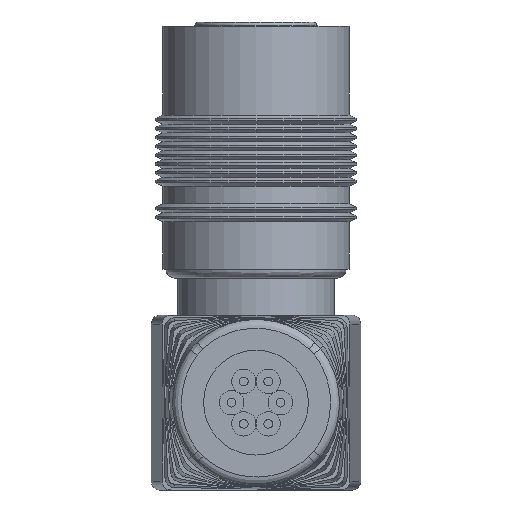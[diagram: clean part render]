
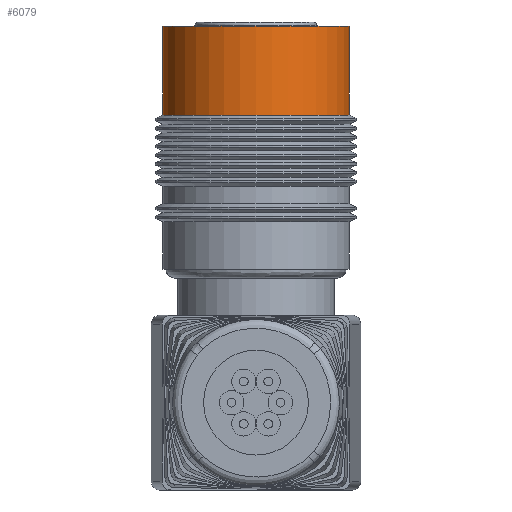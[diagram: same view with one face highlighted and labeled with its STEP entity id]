
A CAD part, front view. The second image highlights one B-rep face of the part: STEP entity #6079.
In plain terms, the highlighted cylindrical face has radius 5.334 mm (diameter 10.668 mm), a partial arc.
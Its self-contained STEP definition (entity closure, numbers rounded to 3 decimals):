
#112 = CARTESIAN_POINT ( 'NONE',  ( 0., 0., 0. ) ) ;
#858 = CARTESIAN_POINT ( 'NONE',  ( 5.334, 0., 5.08 ) ) ;
#903 = DIRECTION ( 'NONE',  ( 1., 0., 0. ) ) ;
#1325 = VERTEX_POINT ( 'NONE', #858 ) ;
#1363 = EDGE_CURVE ( 'NONE', #6434, #1325, #3250, .T. ) ;
#1448 = EDGE_CURVE ( 'NONE', #6422, #3071, #9509, .T. ) ;
#2364 = DIRECTION ( 'NONE',  ( 0., 0., 1. ) ) ;
#3071 = VERTEX_POINT ( 'NONE', #12930 ) ;
#3250 = CIRCLE ( 'NONE', #12692, 5.334 ) ;
#4328 = EDGE_LOOP ( 'NONE', ( #11999, #5222, #9178, #8520 ) ) ;
#5222 = ORIENTED_EDGE ( 'NONE', *, *, #6360, .T. ) ;
#5228 = DIRECTION ( 'NONE',  ( 0., 0., 1. ) ) ;
#6079 = ADVANCED_FACE ( 'NONE', ( #13250 ), #7628, .T. ) ;
#6100 = LINE ( 'NONE', #12605, #10752 ) ;
#6360 = EDGE_CURVE ( 'NONE', #3071, #6434, #6100, .T. ) ;
#6422 = VERTEX_POINT ( 'NONE', #9893 ) ;
#6434 = VERTEX_POINT ( 'NONE', #6664 ) ;
#6664 = CARTESIAN_POINT ( 'NONE',  ( -5.334, 0., 5.08 ) ) ;
#6703 = DIRECTION ( 'NONE',  ( 1., 0., 0. ) ) ;
#7548 = EDGE_CURVE ( 'NONE', #6422, #1325, #12878, .T. ) ;
#7628 = CYLINDRICAL_SURFACE ( 'NONE', #13308, 5.334 ) ;
#7674 = CARTESIAN_POINT ( 'NONE',  ( 5.334, 0., 0. ) ) ;
#8520 = ORIENTED_EDGE ( 'NONE', *, *, #7548, .F. ) ;
#8652 = CARTESIAN_POINT ( 'NONE',  ( 0., 0., 0. ) ) ;
#9178 = ORIENTED_EDGE ( 'NONE', *, *, #1363, .T. ) ;
#9509 = CIRCLE ( 'NONE', #11340, 5.334 ) ;
#9893 = CARTESIAN_POINT ( 'NONE',  ( 5.334, 0., 0. ) ) ;
#9945 = VECTOR ( 'NONE', #5228, 1000. ) ;
#10752 = VECTOR ( 'NONE', #13824, 1000. ) ;
#11340 = AXIS2_PLACEMENT_3D ( 'NONE', #112, #2364, #13198 ) ;
#11999 = ORIENTED_EDGE ( 'NONE', *, *, #1448, .T. ) ;
#12023 = DIRECTION ( 'NONE',  ( 0., 0., 1. ) ) ;
#12046 = DIRECTION ( 'NONE',  ( 0., 0., -1. ) ) ;
#12605 = CARTESIAN_POINT ( 'NONE',  ( -5.334, 0., 0. ) ) ;
#12692 = AXIS2_PLACEMENT_3D ( 'NONE', #13277, #12046, #6703 ) ;
#12878 = LINE ( 'NONE', #7674, #9945 ) ;
#12930 = CARTESIAN_POINT ( 'NONE',  ( -5.334, 0., 0. ) ) ;
#13198 = DIRECTION ( 'NONE',  ( 1., 0., 0. ) ) ;
#13250 = FACE_OUTER_BOUND ( 'NONE', #4328, .T. ) ;
#13277 = CARTESIAN_POINT ( 'NONE',  ( 0., 0., 5.08 ) ) ;
#13308 = AXIS2_PLACEMENT_3D ( 'NONE', #8652, #12023, #903 ) ;
#13824 = DIRECTION ( 'NONE',  ( 0., 0., 1. ) ) ;
